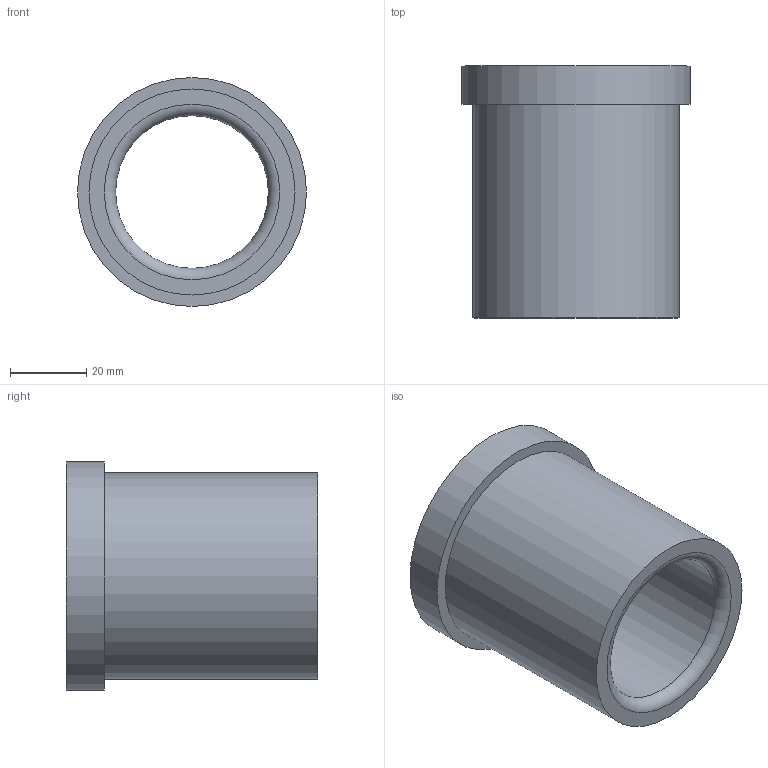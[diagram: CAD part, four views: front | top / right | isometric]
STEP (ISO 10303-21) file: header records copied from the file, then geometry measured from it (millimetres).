
FILE_DESCRIPTION(/* description */ ('STEP AP214'),/* implementation_level */ '2;1');
FILE_NAME(/* name */ '03_12_17861',/* time_stamp */ '2023-06-15T11:35:42+02:00',/* author */ ('License CC BY-ND 4.0'),/* organization */ ('CADENAS'),/* preprocessor_version */ 'ST-DEVELOPER v19.3',/* originating_system */ 'PARTsolutions',/* authorisation */ ' ');
FILE_SCHEMA (('AUTOMOTIVE_DESIGN {1 0 10303 214 3 1 1}'));
Length unit declared in the file: millimetre
Products named in the file (1): VA_Bushing_17861
Bounding box: 60 x 66 x 60 mm (x, y, z)
Volume: 72582 mm3; surface area: 22527.4 mm2
Topology: 1 solids, 1 shells, 10 faces, 16 edges, 10 vertices
Faces by surface type: cylinder 4, plane 4, torus 2
Full cylindrical faces by diameter (mm): 40 x1, 40.6 x1, 54 x1, 60 x1
Entity records: 302 total; most frequent: DIRECTION 42, CARTESIAN_POINT 31, AXIS2_PLACEMENT_3D 21, ORIENTED_EDGE 20, EDGE_LOOP 20, FACE_BOUND 20, EDGE_CURVE 10, VERTEX_POINT 10
